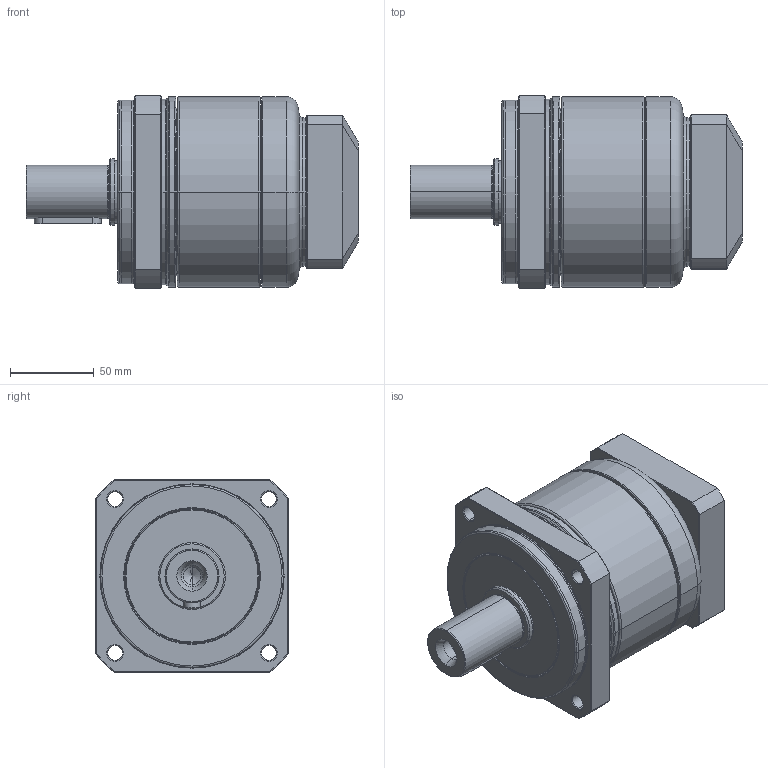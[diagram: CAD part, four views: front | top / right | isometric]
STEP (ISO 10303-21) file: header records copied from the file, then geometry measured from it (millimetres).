
FILE_DESCRIPTION((''),'2;1');
FILE_NAME('PA2-115_1ST_19-P0411400101_ASM','2016-05-05T',('d01943'),(''),'PRO/ENGINEER BY PARAMETRIC TECHNOLOGY CORPORATION, 2008410','PRO/ENGINEER BY PARAMETRIC TECHNOLOGY CORPORATION, 2008410','');
FILE_SCHEMA(('CONFIG_CONTROL_DESIGN'));
Length unit declared in the file: millimetre
Products named in the file (9): P1327410001; P0250400001; P1324400001; P0350400601; P0941400001; P0503400008; P0411400101; P1702500001; PA2-115_1ST_19-P0411400101_ASM
Assembly tree (8 placements, depth 2):
  PA2-115_1ST_19-P0411400101_ASM
    P1327410001
    P0250400001
    P1324400001
    P0350400601
    P0941400001
    P0503400008
    P0411400101
    P1702500001
Bounding box: 198.5 x 115 x 115 mm (x, y, z)
Volume: 1139484.3 mm3; surface area: 206195.9 mm2
Topology: 8 solids, 8 shells, 460 faces, 1006 edges, 580 vertices
Faces by surface type: cone 142, cylinder 129, torus 88, plane 85, bspline 16
Entity records: 17348 total; most frequent: CARTESIAN_POINT 6999, DIRECTION 2340, ORIENTED_EDGE 1972, AXIS2_PLACEMENT_3D 998, EDGE_CURVE 986, VERTEX_POINT 580, CIRCLE 537, EDGE_LOOP 522
